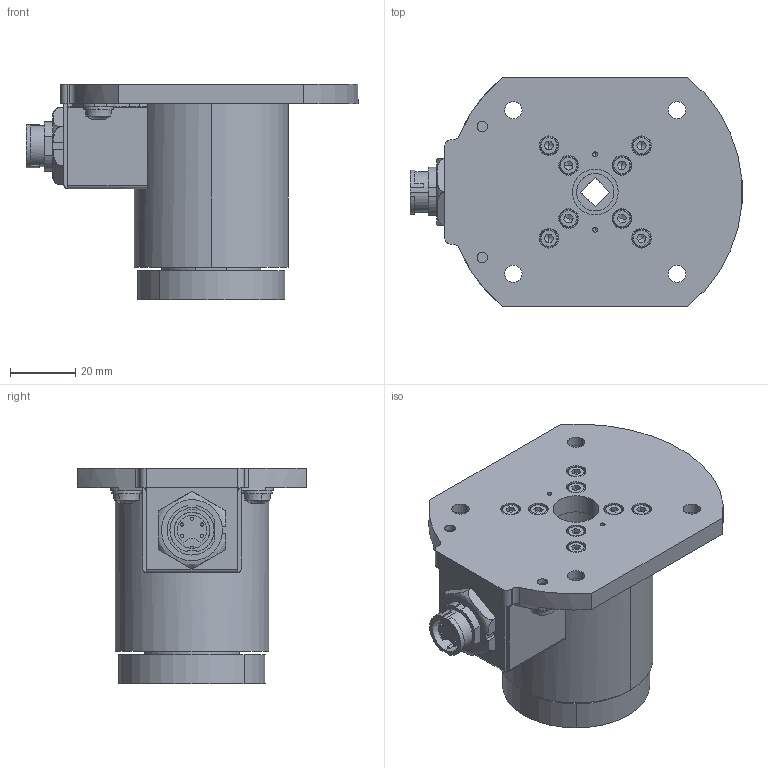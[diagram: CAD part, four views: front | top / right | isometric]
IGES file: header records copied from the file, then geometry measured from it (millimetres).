
Global section: file name: No Iges File Name specified; native system: AutoDesk Inventor R11.0; preprocessor: AutoDesk Inventor Iges Exporter R11.0; author: No Author specified; organization: No Organization specified; date: 20170224.082735; units: millimetre
Bounding box: 101.45 x 70 x 66 mm (x, y, z)
Volume: 110548.6 mm3; surface area: 48148.7 mm2
Topology: 1 solids, 17 shells, 915 faces, 2373 edges, 1496 vertices
Faces by surface type: plane 369, cylinder 155, bspline 155, revolution 152, cone 56, torus 24, sphere 4
